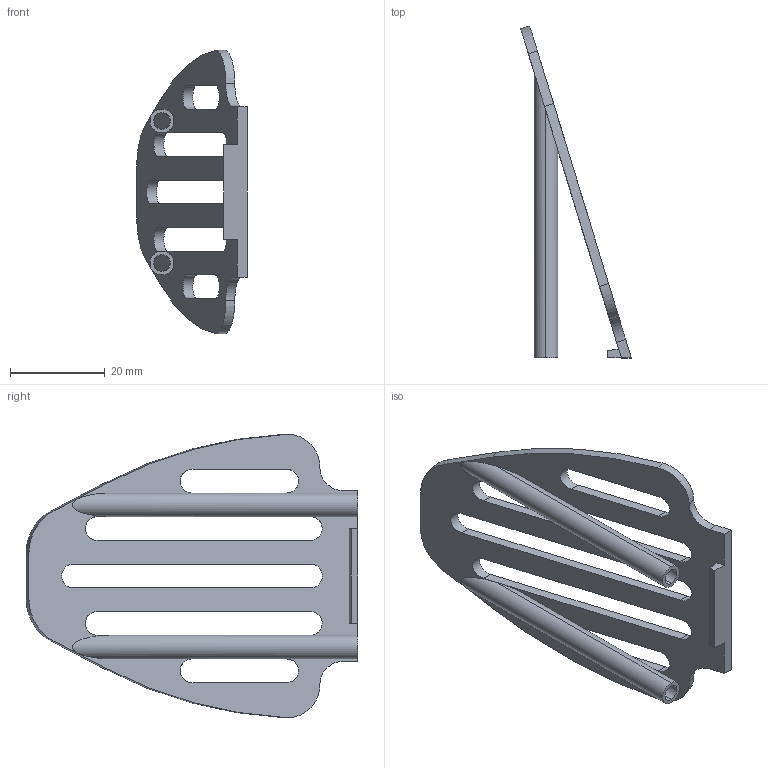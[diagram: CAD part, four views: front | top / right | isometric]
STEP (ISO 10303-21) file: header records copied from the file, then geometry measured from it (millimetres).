
FILE_DESCRIPTION (( 'STEP AP203' ), '1' );
FILE_NAME ('Schräge.STEP', '2020-12-03T12:35:38', ( '' ), ( '' ), 'SwSTEP 2.0', 'SolidWorks 2020', '' );
FILE_SCHEMA (( 'CONFIG_CONTROL_DESIGN' ));
Length unit declared in the file: millimetre
Products named in the file (1): Schräge
Bounding box: 23.31 x 70 x 59.77 mm (x, y, z)
Volume: 5704.2 mm3; surface area: 8775.2 mm2
Topology: 1 solids, 1 shells, 53 faces, 151 edges, 98 vertices
Faces by surface type: plane 27, cylinder 26
Entity records: 1746 total; most frequent: CARTESIAN_POINT 375, ORIENTED_EDGE 286, DIRECTION 247, EDGE_CURVE 143, VERTEX_POINT 94, VECTOR 91, LINE 91, AXIS2_PLACEMENT_3D 78
